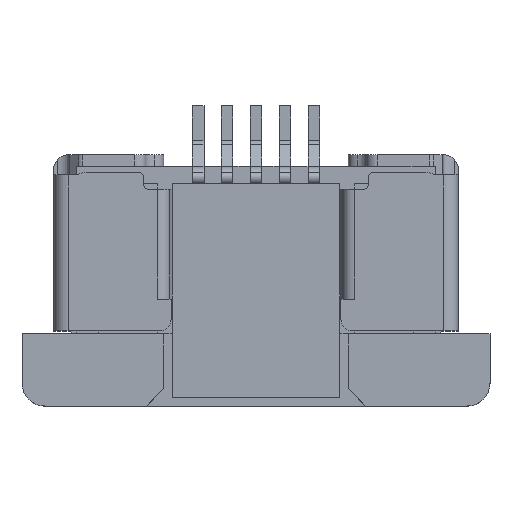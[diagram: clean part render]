
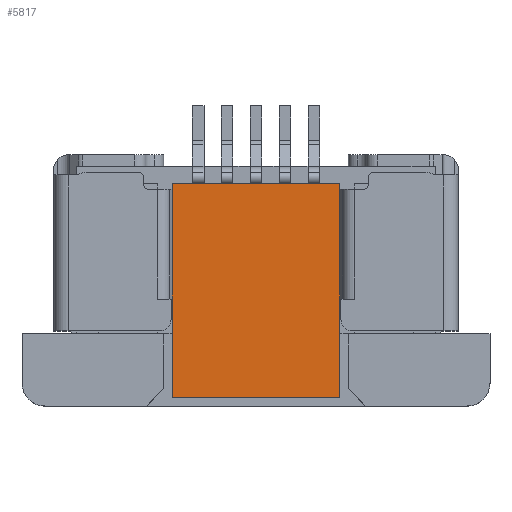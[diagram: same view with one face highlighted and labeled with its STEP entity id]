
A CAD part, top view. The second image highlights one B-rep face of the part: STEP entity #5817.
In plain terms, the highlighted planar face has unit normal (0, 0, 1).
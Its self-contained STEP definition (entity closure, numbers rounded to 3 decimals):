
#4907 = VERTEX_POINT('',#4908);
#4908 = CARTESIAN_POINT('',(1.45,0.38,2.02));
#4914 = EDGE_CURVE('',#4915,#4907,#4917,.T.);
#4915 = VERTEX_POINT('',#4916);
#4916 = CARTESIAN_POINT('',(-1.45,0.38,2.02));
#4917 = LINE('',#4918,#4919);
#4918 = CARTESIAN_POINT('',(-1.45,0.38,2.02));
#4919 = VECTOR('',#4920,1.);
#4920 = DIRECTION('',(1.,0.,0.));
#5750 = EDGE_CURVE('',#5751,#4915,#5753,.T.);
#5751 = VERTEX_POINT('',#5752);
#5752 = CARTESIAN_POINT('',(-1.45,-3.32,2.02));
#5753 = LINE('',#5754,#5755);
#5754 = CARTESIAN_POINT('',(-1.45,-3.32,2.02));
#5755 = VECTOR('',#5756,1.);
#5756 = DIRECTION('',(0.,1.,0.));
#5817 = ADVANCED_FACE('',(#5818),#5836,.T.);
#5818 = FACE_BOUND('',#5819,.F.);
#5819 = EDGE_LOOP('',(#5820,#5821,#5822,#5830));
#5820 = ORIENTED_EDGE('',*,*,#5750,.T.);
#5821 = ORIENTED_EDGE('',*,*,#4914,.T.);
#5822 = ORIENTED_EDGE('',*,*,#5823,.F.);
#5823 = EDGE_CURVE('',#5824,#4907,#5826,.T.);
#5824 = VERTEX_POINT('',#5825);
#5825 = CARTESIAN_POINT('',(1.45,-3.32,2.02));
#5826 = LINE('',#5827,#5828);
#5827 = CARTESIAN_POINT('',(1.45,-3.32,2.02));
#5828 = VECTOR('',#5829,1.);
#5829 = DIRECTION('',(0.,1.,0.));
#5830 = ORIENTED_EDGE('',*,*,#5831,.F.);
#5831 = EDGE_CURVE('',#5751,#5824,#5832,.T.);
#5832 = LINE('',#5833,#5834);
#5833 = CARTESIAN_POINT('',(-1.45,-3.32,2.02));
#5834 = VECTOR('',#5835,1.);
#5835 = DIRECTION('',(1.,0.,0.));
#5836 = PLANE('',#5837);
#5837 = AXIS2_PLACEMENT_3D('',#5838,#5839,#5840);
#5838 = CARTESIAN_POINT('',(-1.45,-3.32,2.02));
#5839 = DIRECTION('',(0.,0.,1.));
#5840 = DIRECTION('',(0.,1.,0.));
